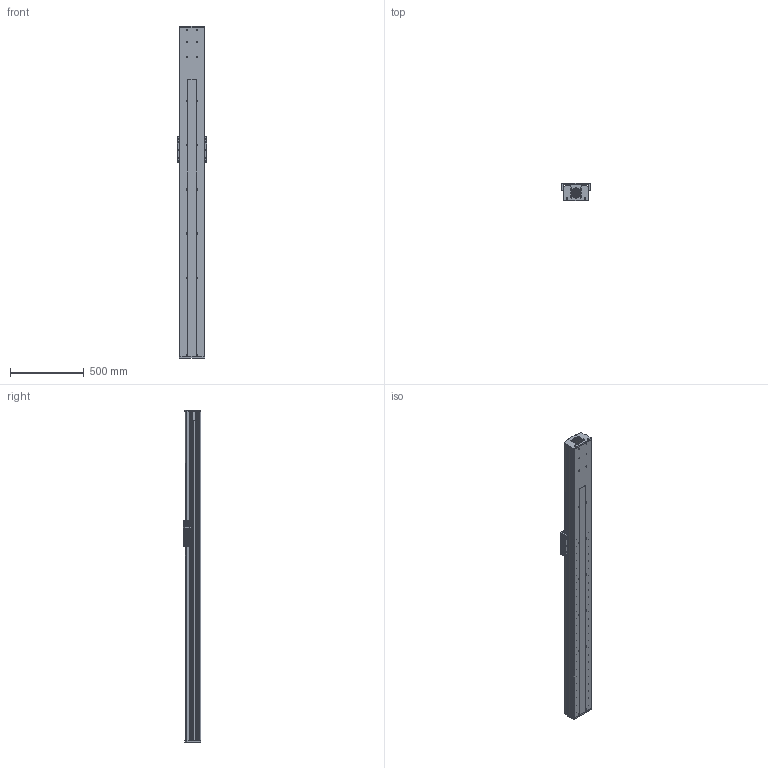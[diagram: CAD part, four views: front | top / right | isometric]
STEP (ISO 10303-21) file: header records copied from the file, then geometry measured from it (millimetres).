
FILE_DESCRIPTION (( 'STEP AP203' ), '1' );
FILE_NAME ('CF175-2-P1900.STEP', '2016-02-23T07:49:14', ( 'Sky123.Org' ), ( 'Sky123.Org' ), 'SwSTEP 2.0', 'SolidWorks 2015', '' );
FILE_SCHEMA (( 'CONFIG_CONTROL_DESIGN' ));
Length unit declared in the file: millimetre
Products named in the file (13): Y1-CF175-2-P1200-1547裔啣; Y1-CF175-2-P1200-1547臏倰第; Y1-HGR20-1500絳寢; CF-HGH20CA賑輸; CF175-2賑雄啣; SFU2505-4; 175-2梓袧嘐隅釱; X1-SFS2525-1185; 175-2侜督80萇儂釱; 175-2耜啣; CF175-2-P1900; 175-2盓傅釱; CF175-2蹟譫釱
Assembly tree (16 placements, depth 2):
  CF175-2-P1900
    CF-HGH20CA賑輸  x4
    SFU2505-4
    X1-SFS2525-1185
    175-2耜啣
    175-2盓傅釱
    CF175-2蹟譫釱
    Y1-CF175-2-P1200-1547裔啣
    Y1-CF175-2-P1200-1547臏倰第
    Y1-HGR20-1500絳寢  x2
    CF175-2賑雄啣
    175-2梓袧嘐隅釱
    175-2侜督80萇儂釱
Bounding box: 200 x 116.8 x 2255 mm (x, y, z)
Volume: 15080816.8 mm3; surface area: 4022287.9 mm2
Topology: 20 solids, 20 shells, 1575 faces, 4137 edges, 2740 vertices
Faces by surface type: cylinder 857, plane 694, cone 20, bspline 4
Entity records: 46222 total; most frequent: CARTESIAN_POINT 11888, DIRECTION 7184, ORIENTED_EDGE 6612, EDGE_CURVE 3306, AXIS2_PLACEMENT_3D 2725, VERTEX_POINT 2188, VECTOR 1734, LINE 1734
